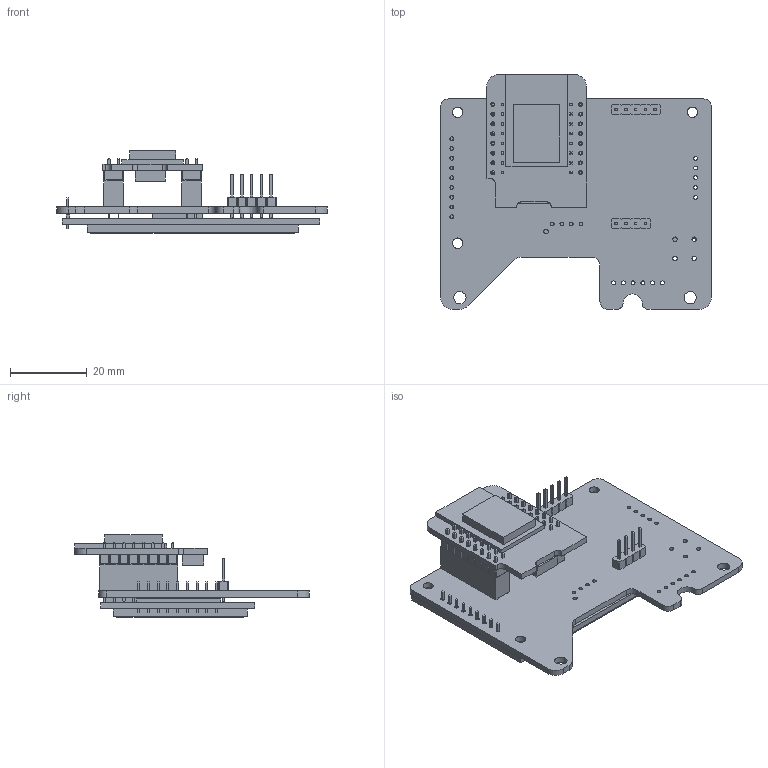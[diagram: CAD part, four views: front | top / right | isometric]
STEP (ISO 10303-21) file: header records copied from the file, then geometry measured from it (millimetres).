
FILE_DESCRIPTION(('KiCad electronic assembly'),'2;1');
FILE_NAME('airQ.step','2022-09-26T17:29:13',('Pcbnew'),('Kicad'), 'Open CASCADE STEP processor 7.6','KiCad to STEP converter','Unknown' );
FILE_SCHEMA(('AUTOMOTIVE_DESIGN { 1 0 10303 214 1 1 1 1 }'));
Length unit declared in the file: millimetre
Products named in the file (14): airQ 1; PinHeader_1x05_P2.54mm_Vertical; SOLID; PinHeader_1x04_P2.54mm_Vertical; WEMOS_D1_mini_light; PinHeader_2x08_P2.54mm_Vertical; PinSocket_2x08_P2.54mm_Vertical; CR2013-MI2120; COMPOUND; airQ PCB
Assembly tree (15 placements, depth 3):
  airQ 1
    PinHeader_1x05_P2.54mm_Vertical
      SOLID
    PinHeader_1x04_P2.54mm_Vertical
      SOLID
    WEMOS_D1_mini_light
      SOLID
    PinHeader_2x08_P2.54mm_Vertical  x2
      SOLID
    PinSocket_2x08_P2.54mm_Vertical  x2
      SOLID
    CR2013-MI2120
      COMPOUND
    airQ PCB
Bounding box: 70.5 x 61.07 x 21.5 mm (x, y, z)
Volume: 18328.4 mm3; surface area: 23709.8 mm2
Topology: 10 solids, 10 shells, 2192 faces, 5456 edges, 3484 vertices
Faces by surface type: bspline 2095, cylinder 86, plane 11
Full cylindrical faces by diameter (mm): 0.95 x4, 1 x61, 1.15 x4, 1.2 x1, 2.7 x3, 3.2 x2
Entity records: 84420 total; most frequent: CARTESIAN_POINT 28716, B_SPLINE_CURVE_WITH_KNOTS 9107, ORIENTED_EDGE 6724, PCURVE 6724, DEFINITIONAL_REPRESENTATION 6724, EDGE_CURVE 3362, SURFACE_CURVE 3262, VERTEX_POINT 2152
